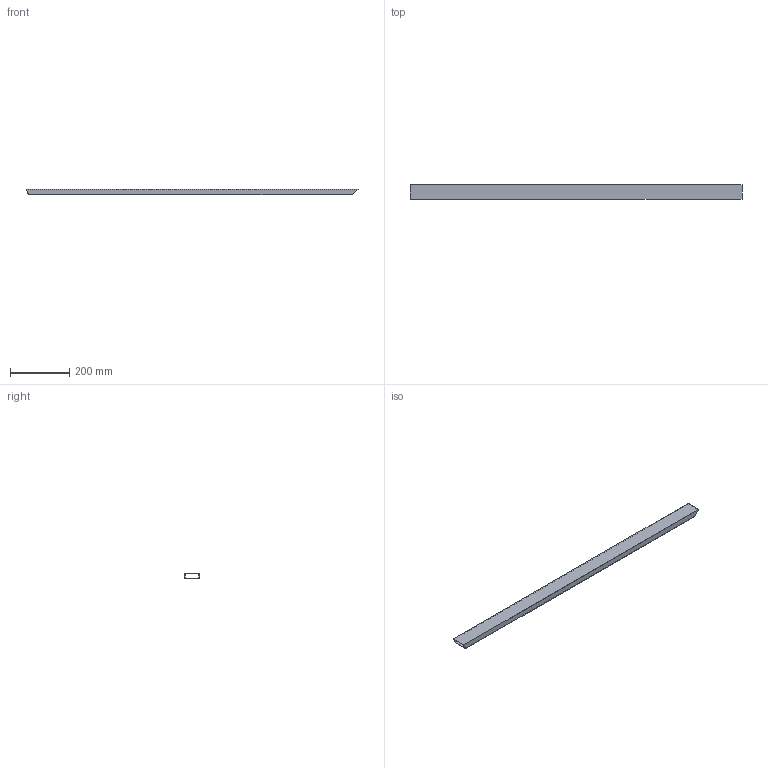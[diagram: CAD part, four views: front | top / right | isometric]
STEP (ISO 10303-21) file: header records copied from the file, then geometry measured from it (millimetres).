
FILE_DESCRIPTION(/* description */ (''),/* implementation_level */ '2;1');
FILE_NAME(/* name */ 'Pos124-Koker 50x20x2 EN 10219-2-S235JRH-1st',/* time_stamp */ '2024-08-06T13:49:48+02:00',/* author */ (''),/* organization */ (''),/* preprocessor_version */ 'ST-DEVELOPER v16.5',/* originating_system */ 'HiCAD 2024 2901.2 Build 361',/* authorisation */ '');
FILE_SCHEMA (('AUTOMOTIVE_DESIGN { 1 0 10303 214 1 1 1 1 }'));
Length unit declared in the file: millimetre
Products named in the file (1): Pos124-Koker 50x20x2 EN 10219-2-S235JRH-1st
Bounding box: 1118.94 x 50 x 20 mm (x, y, z)
Volume: 291500.8 mm3; surface area: 292166.7 mm2
Topology: 1 solids, 1 shells, 10 faces, 24 edges, 16 vertices
Faces by surface type: plane 10
Entity records: 550 total; most frequent: CARTESIAN_POINT 50, PRESENTATION_STYLE_ASSIGNMENT 49, COLOUR_RGB 49, DRAUGHTING_PRE_DEFINED_CURVE_FONT 48, CURVE_STYLE 48, OVER_RIDING_STYLED_ITEM 48, ORIENTED_EDGE 48, DIRECTION 44
